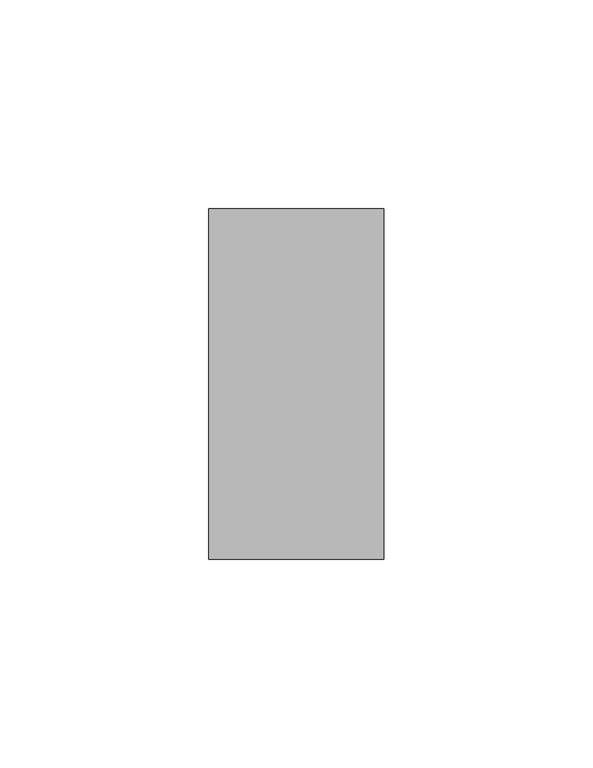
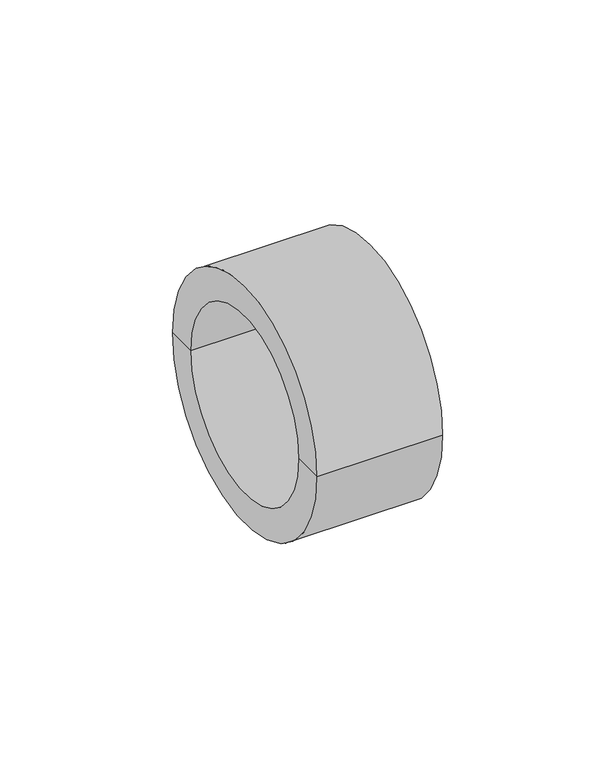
"""IFC4 building model written with IfcOpenShell, lengths in millimetres: pipe fitting geometry, EGB_VASEN_ PPR_Tapon WXR700 : Tapón WXR700."""

from ifc_helpers import new_model, si_unit, frame, origin, place, context, project, spatial, polyline, circle_curve, source, transform, mapped, element, save
from ifc_brep_helpers import plane_surface, cylinder_surface, revolved_surface, advanced_brep


def pipe_fitting_8dbe15ac(model_context):
    return source(origin(), model_context, "Body", "AdvancedBrep", [
        advanced_brep(
        [(0.0, -42.0, 0.0), (0.0, 42.0, 0.0), (42.0, 42.0, 0.0), (42.0, -42.0, 0.0), (0.0, -31.5, 0.0), (0.0, 31.5, 0.0), (31.5, -31.5, 0.0), (31.5, 31.5, 0.0), (31.5, 0.0, 0.0), (42.0, 0.0, 0.0)],
        [
            (0, 1, circle_curve(frame((0.0, 0.0, 0.0), z_axis=(1.0, 0.0, 0.0), x_axis=(0.0, 1.0, 0.0)), 42.0)),
            (1, 2),
            (2, 3, circle_curve(frame((42.0, 0.0, 0.0), z_axis=(-1.0, 0.0, 0.0), x_axis=(0.0, 1.0, 0.0)), 42.0)),
            (3, 0),
            (1, 0, circle_curve(frame((0.0, 0.0, 0.0), z_axis=(1.0, 0.0, 0.0), x_axis=(0.0, 1.0, 0.0)), 42.0)),
            (3, 2, circle_curve(frame((42.0, 0.0, 0.0), z_axis=(-1.0, 0.0, 0.0), x_axis=(0.0, 1.0, 0.0)), 42.0)),
            (4, 5, circle_curve(frame((0.0, 0.0, 0.0), z_axis=(1.0, 0.0, 0.0), x_axis=(0.0, 1.0, 0.0)), 31.5)),
            (5, 1),
            (0, 4),
            (5, 4, circle_curve(frame((0.0, 0.0, 0.0), z_axis=(1.0, 0.0, 0.0), x_axis=(0.0, 1.0, 0.0)), 31.5)),
            (6, 7, circle_curve(frame((31.5, 0.0, 0.0), z_axis=(1.0, 0.0, 0.0), x_axis=(0.0, 1.0, 0.0)), 31.5)),
            (7, 5),
            (4, 6),
            (7, 6, circle_curve(frame((31.5, 0.0, 0.0), z_axis=(1.0, 0.0, 0.0), x_axis=(0.0, 1.0, 0.0)), 31.5)),
            (8, 7),
            (6, 8),
            (2, 9),
            (9, 3),
        ],
        [
            cylinder_surface(frame((24.758615, 0.0, 0.0), z_axis=(-1.0, 0.0, 0.0), x_axis=(0.0, 1.0, 0.0)), 42.0),
            plane_surface(frame((0.0, 0.0, 0.0), z_axis=(-1.0, 0.0, 0.0), x_axis=(0.0, 1.0, 0.0))),
            revolved_surface(polyline([(0.0, 31.5, 0.0), (31.5, 31.5, 0.0)]), (24.758615, 0.0, 0.0), (-1.0, 0.0, 0.0)),
            plane_surface(frame((31.5, 0.0, 0.0), z_axis=(-1.0, 0.0, 0.0), x_axis=(0.0, 1.0, 0.0))),
            plane_surface(frame((42.0, 0.0, 0.0), z_axis=(1.0, 0.0, 0.0), x_axis=(0.0, 1.0, 0.0))),
        ],
        [
            (0, [[1, 2, 3, 4]]),
            (0, [[5, -4, 6, -2]]),
            (1, [[7, 8, -1, 9]]),
            (1, [[10, -9, -5, -8]]),
            (2, [[11, 12, -7, 13]]),
            (2, [[14, -13, -10, -12]]),
            (3, [[15, -11, 16]]),
            (3, [[-16, -14, -15]]),
            (4, [[-3, 17, 18]]),
            (4, [[-6, -18, -17]]),
        ],
    ),
    ])


if __name__ == "__main__":
    model = new_model("IFC4")
    model_context = context("Model", 3, world=origin())
    ifc_project = project(units=[si_unit("LENGTHUNIT", "METRE", prefix="MILLI")], contexts=[model_context])
    site = spatial("IfcSite", under=ifc_project)
    building = spatial("IfcBuilding", under=site)
    placement = place(None, origin())
    pipe_fitting_shape = pipe_fitting_8dbe15ac(model_context)
    element("IfcPipeFitting", 1, ObjectType="EGB_VASEN_ PPR_Tapon WXR700 : Tapón WXR700", at=placement, inside=building, context=model_context, shape_type="MappedRepresentation", body=[
        mapped(pipe_fitting_shape, transform((0.0, 0.0, 0.0), x_axis=(1.0, 0.0, 0.0), y_axis=(0.0, 1.0, 0.0), z_axis=(0.0, 0.0, 1.0))),
    ])
    save(model, "model.ifc")
